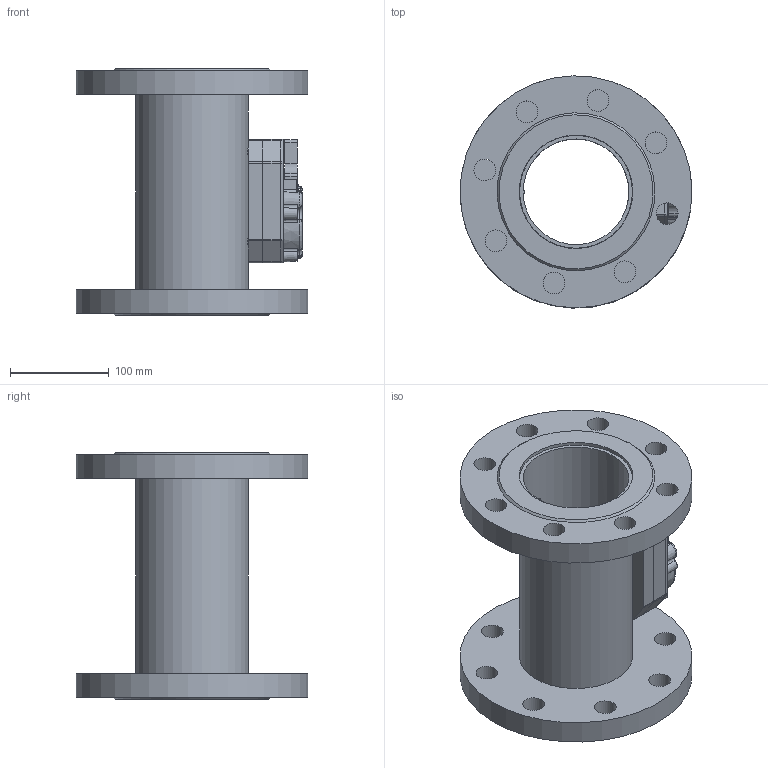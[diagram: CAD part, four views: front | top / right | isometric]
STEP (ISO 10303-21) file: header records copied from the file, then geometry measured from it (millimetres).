
FILE_DESCRIPTION( ( 'Unknown' ), '1' );
FILE_NAME( 'H:/440 pour vente_mai_2013/step_2/DN100_PN25_inox_250mm_rempli.stp', 'Unknown', ( 'Unknown' ), ( 'Unknown' ), 'PSStep 15.0.49', 'Unknown', ' ' );
FILE_SCHEMA( ( 'AUTOMOTIVE_DESIGN { 1 0 10303 214 1 1 1 1 }' ) );
Length unit declared in the file: millimetre
Products named in the file (9): 440_tête_rempli; 0440P011_rempli; 0440P012_rempli; 0440P060_rempli; Assem1; 0440P225_rempli; 0440P202_rempli; 0440P229_rempli; 0440P301_rempli
Assembly tree (10 placements, depth 3):
  Assem1
    0440P225_rempli  x2
    0440P202_rempli
    0440P229_rempli
    0440P301_rempli  x2
    440_tête_rempli
      0440P011_rempli
      0440P012_rempli
      0440P060_rempli
Bounding box: 234.92 x 234.92 x 250 mm (x, y, z)
Volume: 2159462.7 mm3; surface area: 463988 mm2
Topology: 9 solids, 14 shells, 276 faces, 701 edges, 440 vertices
Faces by surface type: cylinder 96, plane 79, cone 57, torus 29, bspline 15
Full cylindrical faces by diameter (mm): 2.2 x1, 2.459 x2, 2.5 x1, 3 x2, 3.242 x4, 4.1 x1, 5.03 x1, 6 x1, 6.2 x6, 6.917 x2, 10.2 x2, 16 x2, 20 x4, 22 x16, 109 x1, 114.3 x1, 115 x2, 235 x2
Entity records: 13578 total; most frequent: CARTESIAN_POINT 5532, DIRECTION 1281, ORIENTED_EDGE 1090, EDGE_CURVE 545, AXIS2_PLACEMENT_3D 538, VERTEX_POINT 377, EDGE_LOOP 362, FACE_OUTER_BOUND 297
